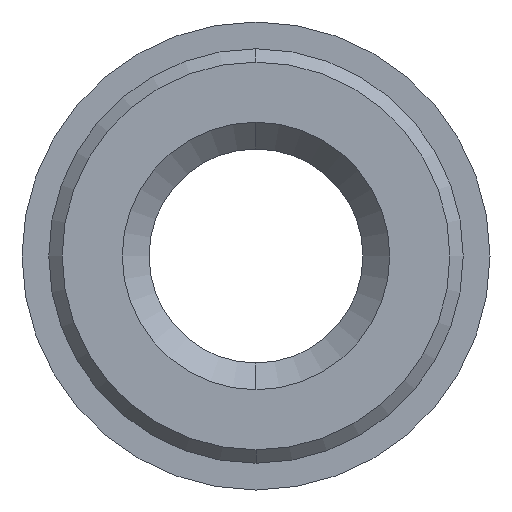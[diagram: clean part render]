
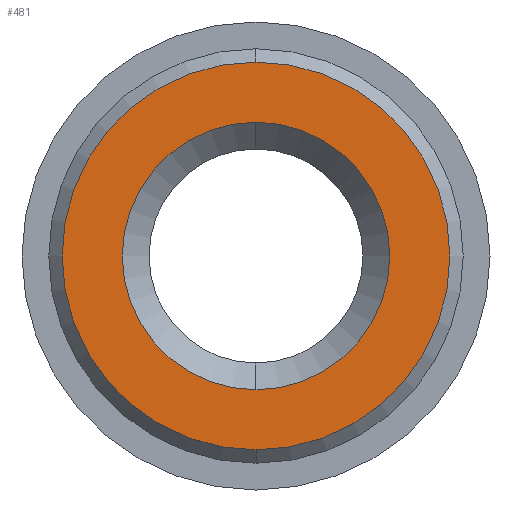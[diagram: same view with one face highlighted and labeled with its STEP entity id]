
A CAD part, left-side view. The second image highlights one B-rep face of the part: STEP entity #481.
In plain terms, the highlighted planar face has unit normal (-1, 0, 0).
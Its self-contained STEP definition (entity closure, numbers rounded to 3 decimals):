
#16 = DIRECTION ( 'NONE',  ( 0., 0., 1. ) ) ;
#18 = DIRECTION ( 'NONE',  ( 0., 0., -1. ) ) ;
#28 = CARTESIAN_POINT ( 'NONE',  ( -1.95, 0., 0. ) ) ;
#33 = EDGE_LOOP ( 'NONE', ( #401, #580 ) ) ;
#37 = DIRECTION ( 'NONE',  ( 1., 0., 0. ) ) ;
#38 = CIRCLE ( 'NONE', #480, 1. ) ;
#48 = CARTESIAN_POINT ( 'NONE',  ( -1.95, 0., 1. ) ) ;
#65 = EDGE_CURVE ( 'NONE', #731, #682, #106, .T. ) ;
#93 = AXIS2_PLACEMENT_3D ( 'NONE', #508, #37, #209 ) ;
#97 = VERTEX_POINT ( 'NONE', #109 ) ;
#106 = CIRCLE ( 'NONE', #93, 1.45 ) ;
#109 = CARTESIAN_POINT ( 'NONE',  ( -1.95, 0., -1. ) ) ;
#131 = CARTESIAN_POINT ( 'NONE',  ( -1.95, 1.55, 0. ) ) ;
#133 = ORIENTED_EDGE ( 'NONE', *, *, #65, .F. ) ;
#139 = CARTESIAN_POINT ( 'NONE',  ( -1.95, 0., -1.45 ) ) ;
#143 = DIRECTION ( 'NONE',  ( 1., 0., 0. ) ) ;
#186 = FACE_OUTER_BOUND ( 'NONE', #249, .T. ) ;
#209 = DIRECTION ( 'NONE',  ( 0., 0., 1. ) ) ;
#234 = EDGE_CURVE ( 'NONE', #532, #97, #396, .T. ) ;
#249 = EDGE_LOOP ( 'NONE', ( #617, #133 ) ) ;
#311 = AXIS2_PLACEMENT_3D ( 'NONE', #28, #143, #625 ) ;
#366 = DIRECTION ( 'NONE',  ( 1., 0., 0. ) ) ;
#396 = CIRCLE ( 'NONE', #495, 1. ) ;
#401 = ORIENTED_EDGE ( 'NONE', *, *, #234, .T. ) ;
#413 = DIRECTION ( 'NONE',  ( 0., 0., -1. ) ) ;
#480 = AXIS2_PLACEMENT_3D ( 'NONE', #742, #633, #18 ) ;
#481 = ADVANCED_FACE ( 'NONE', ( #723, #186 ), #671, .F. ) ;
#495 = AXIS2_PLACEMENT_3D ( 'NONE', #595, #760, #413 ) ;
#508 = CARTESIAN_POINT ( 'NONE',  ( -1.95, 0., 0. ) ) ;
#532 = VERTEX_POINT ( 'NONE', #48 ) ;
#561 = CARTESIAN_POINT ( 'NONE',  ( -1.95, 0., 1.45 ) ) ;
#562 = AXIS2_PLACEMENT_3D ( 'NONE', #131, #366, #16 ) ;
#580 = ORIENTED_EDGE ( 'NONE', *, *, #727, .T. ) ;
#586 = CIRCLE ( 'NONE', #311, 1.45 ) ;
#595 = CARTESIAN_POINT ( 'NONE',  ( -1.95, 0., 0. ) ) ;
#617 = ORIENTED_EDGE ( 'NONE', *, *, #646, .F. ) ;
#625 = DIRECTION ( 'NONE',  ( 0., 0., 1. ) ) ;
#633 = DIRECTION ( 'NONE',  ( 1., 0., 0. ) ) ;
#646 = EDGE_CURVE ( 'NONE', #682, #731, #586, .T. ) ;
#671 = PLANE ( 'NONE',  #562 ) ;
#682 = VERTEX_POINT ( 'NONE', #561 ) ;
#723 = FACE_BOUND ( 'NONE', #33, .T. ) ;
#727 = EDGE_CURVE ( 'NONE', #97, #532, #38, .T. ) ;
#731 = VERTEX_POINT ( 'NONE', #139 ) ;
#742 = CARTESIAN_POINT ( 'NONE',  ( -1.95, 0., 0. ) ) ;
#760 = DIRECTION ( 'NONE',  ( 1., 0., 0. ) ) ;
